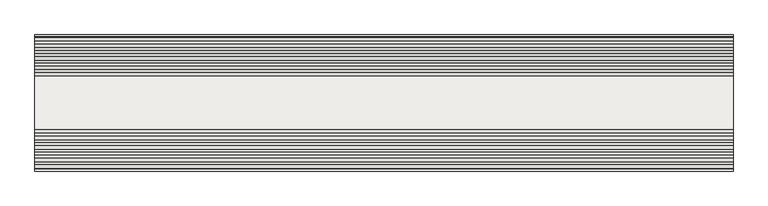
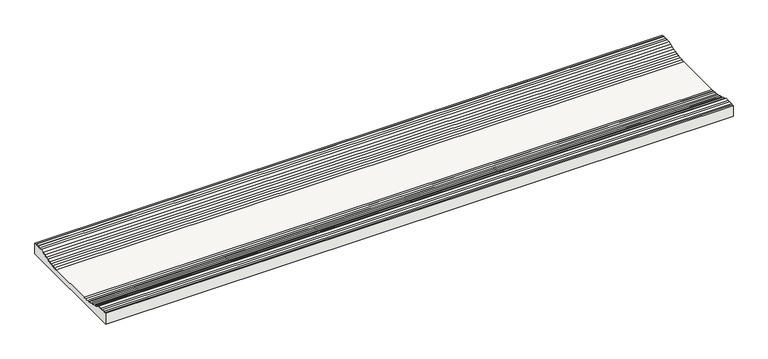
"""IFC4 building model written with IfcOpenShell, lengths in millimetres: slab geometry, ROSA GRES_204 : Pieza 204_Indugres_Indubeige_Tecno."""

from ifc_helpers import new_model, si_unit, point, frame, frame_2d, origin, place, context, project, spatial, polyline, circle_curve, trimmed, segment, composite_curve, outline, extrude, source, transform, mapped, element, save


def slab_c1fd4eab(model_context):
    return source(origin(), model_context, "Body", "SweptSolid", [
        extrude(outline(composite_curve([segment(polyline([(0.0, 0.0), (-250.0, 0.0), (-250.0, 22.8672484), (-246.5165615, 22.8672484)]), True, "CONTINUOUS"), segment(trimmed(circle_curve(frame_2d((-246.5165615, 24.9459193)), 2.078671), [point((-246.5165615, 22.8672484))], [point((-244.6066559, 24.1254722))], True, "CARTESIAN"), True, "CONTINUOUS"), segment(trimmed(circle_curve(frame_2d((-241.5227559, 27.2443435)), 4.3860914), [point((-244.6066559, 24.1254722))], [point((-238.5231465, 24.0443215))], True, "CARTESIAN"), True, "CONTINUOUS"), segment(trimmed(circle_curve(frame_2d((-235.5165615, 27.2619892)), 4.4037415), [point((-238.5231465, 24.0443215))], [point((-232.5161808, 24.0385354))], True, "CARTESIAN"), True, "CONTINUOUS"), segment(trimmed(circle_curve(frame_2d((-229.5227559, 27.2443435)), 4.3860914), [point((-232.5161808, 24.0385354))], [point((-226.4518445, 24.1126825))], True, "CARTESIAN"), True, "CONTINUOUS"), segment(trimmed(circle_curve(frame_2d((-222.4126485, 25.8222711)), 4.3860914), [point((-226.4518445, 24.1126825))], [point((-220.9070916, 21.702672))], True, "CARTESIAN"), True, "CONTINUOUS"), segment(trimmed(circle_curve(frame_2d((-217.0089888, 23.7132919)), 4.3860914), [point((-220.9070916, 21.702672))], [point((-215.3259087, 19.6629784))], True, "CARTESIAN"), True, "CONTINUOUS"), segment(trimmed(circle_curve(frame_2d((-211.4655295, 21.7451095)), 4.3860914), [point((-215.3259087, 19.6629784))], [point((-209.593873, 17.7784107))], True, "CARTESIAN"), True, "CONTINUOUS"), segment(trimmed(circle_curve(frame_2d((-205.8934032, 20.1330489)), 4.3860914), [point((-209.593873, 17.7784107))], [point((-203.853023, 16.2504407))], True, "CARTESIAN"), True, "CONTINUOUS"), segment(trimmed(circle_curve(frame_2d((-200.2085503, 18.690854)), 4.3860914), [point((-203.853023, 16.2504407))], [point((-197.9613895, 14.9241491))], True, "CARTESIAN"), True, "CONTINUOUS"), segment(trimmed(circle_curve(frame_2d((-194.4503067, 17.5528551)), 4.3860914), [point((-197.9613895, 14.9241491))], [point((-192.1240285, 13.8344915))], True, "CARTESIAN"), True, "CONTINUOUS"), segment(trimmed(circle_curve(frame_2d((-188.6900903, 16.563203)), 4.3860914), [point((-192.1240285, 13.8344915))], [point((-186.1425933, 12.9927609))], True, "CARTESIAN"), True, "CONTINUOUS"), segment(trimmed(circle_curve(frame_2d((-182.8453461, 15.8851576)), 4.3860914), [point((-186.1425933, 12.9927609))], [point((-180.2419212, 12.3552884))], True, "CARTESIAN"), True, "CONTINUOUS"), segment(trimmed(circle_curve(frame_2d((-177.0588098, 15.372837)), 4.3860914), [point((-180.2419212, 12.3552884))], [point((-174.3413989, 11.9299493))], True, "CARTESIAN"), True, "CONTINUOUS"), segment(polyline([(-174.3413989, 11.9299493), (-75.6586011, 11.9299493)]), True, "CONTINUOUS"), segment(trimmed(circle_curve(frame_2d((-72.9411902, 15.372837)), 4.3860914), [point((-75.6586011, 11.9299493))], [point((-69.7580788, 12.3552884))], True, "CARTESIAN"), True, "CONTINUOUS"), segment(trimmed(circle_curve(frame_2d((-67.1546539, 15.8851576)), 4.3860914), [point((-69.7580788, 12.3552884))], [point((-63.8574067, 12.9927609))], True, "CARTESIAN"), True, "CONTINUOUS"), segment(trimmed(circle_curve(frame_2d((-61.3099097, 16.563203)), 4.3860914), [point((-63.8574067, 12.9927609))], [point((-57.8759715, 13.8344915))], True, "CARTESIAN"), True, "CONTINUOUS"), segment(trimmed(circle_curve(frame_2d((-55.5496933, 17.5528551)), 4.3860914), [point((-57.8759715, 13.8344915))], [point((-52.0386105, 14.9241491))], True, "CARTESIAN"), True, "CONTINUOUS"), segment(trimmed(circle_curve(frame_2d((-49.7914497, 18.690854)), 4.3860914), [point((-52.0386105, 14.9241491))], [point((-46.146977, 16.2504407))], True, "CARTESIAN"), True, "CONTINUOUS"), segment(trimmed(circle_curve(frame_2d((-44.1065968, 20.1330489)), 4.3860914), [point((-46.146977, 16.2504407))], [point((-40.406127, 17.7784107))], True, "CARTESIAN"), True, "CONTINUOUS"), segment(trimmed(circle_curve(frame_2d((-38.5344705, 21.7451095)), 4.3860914), [point((-40.406127, 17.7784107))], [point((-34.6740913, 19.6629784))], True, "CARTESIAN"), True, "CONTINUOUS"), segment(trimmed(circle_curve(frame_2d((-32.9910112, 23.7132919)), 4.3860914), [point((-34.6740913, 19.6629784))], [point((-29.0929084, 21.702672))], True, "CARTESIAN"), True, "CONTINUOUS"), segment(trimmed(circle_curve(frame_2d((-27.5873515, 25.8222711)), 4.3860914), [point((-29.0929084, 21.702672))], [point((-23.5481555, 24.1126825))], True, "CARTESIAN"), True, "CONTINUOUS"), segment(trimmed(circle_curve(frame_2d((-20.4772441, 27.2443435)), 4.3860914), [point((-23.5481555, 24.1126825))], [point((-17.4838192, 24.0385354))], True, "CARTESIAN"), True, "CONTINUOUS"), segment(trimmed(circle_curve(frame_2d((-14.4834385, 27.2619892)), 4.4037415), [point((-17.4838192, 24.0385354))], [point((-11.4768535, 24.0443215))], True, "CARTESIAN"), True, "CONTINUOUS"), segment(trimmed(circle_curve(frame_2d((-8.4772441, 27.2443435)), 4.3860914), [point((-11.4768535, 24.0443215))], [point((-5.3933441, 24.1254722))], True, "CARTESIAN"), True, "CONTINUOUS"), segment(trimmed(circle_curve(frame_2d((-3.4834385, 24.9459193)), 2.078671), [point((-5.3933441, 24.1254722))], [point((-3.4834385, 22.8672484))], True, "CARTESIAN"), True, "CONTINUOUS"), segment(polyline([(-3.4834385, 22.8672484), (0.0, 22.8672484), (0.0, 0.0)]), True, "CONTINUOUS")], self_intersect=False)), frame((0.0, 0.0, 0.0), z_axis=(1.0, 0.0, 0.0), x_axis=(0.0, 1.0, 0.0)), (0.0, 0.0, 1.0), 1281.8784367),
    ])


if __name__ == "__main__":
    model = new_model("IFC4")
    model_context = context("Model", 3, world=origin())
    ifc_project = project(units=[si_unit("LENGTHUNIT", "METRE", prefix="MILLI")], contexts=[model_context])
    site = spatial("IfcSite", under=ifc_project)
    building = spatial("IfcBuilding", under=site)
    placement = place(None, origin())
    slab_shape = slab_c1fd4eab(model_context)
    element("IfcSlab", 1, ObjectType="ROSA GRES_204 : Pieza 204_Indugres_Indubeige_Tecno", at=placement, inside=building, context=model_context, shape_type="MappedRepresentation", body=[
        mapped(slab_shape, transform((0.0, 0.0, 0.0), x_axis=(1.0, 0.0, 0.0), y_axis=(0.0, 1.0, 0.0), z_axis=(0.0, 0.0, 1.0))),
    ])
    save(model, "model.ifc")
